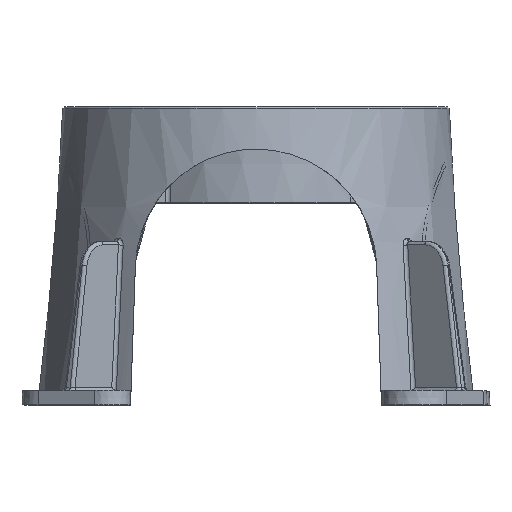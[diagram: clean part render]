
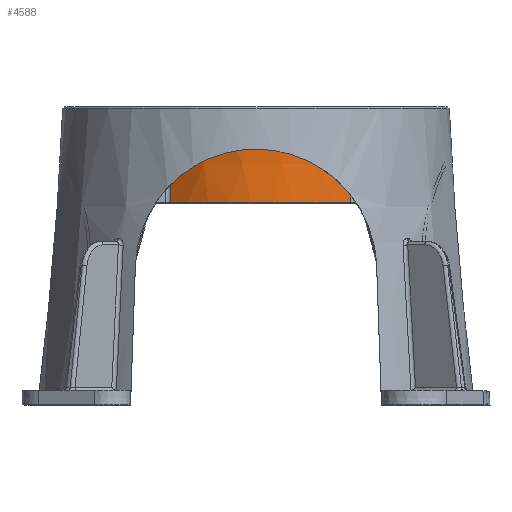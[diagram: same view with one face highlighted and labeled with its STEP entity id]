
A CAD part, top view. The second image highlights one B-rep face of the part: STEP entity #4588.
In plain terms, the highlighted conical face has half-angle 2 degrees and reference radius 62.049 mm.
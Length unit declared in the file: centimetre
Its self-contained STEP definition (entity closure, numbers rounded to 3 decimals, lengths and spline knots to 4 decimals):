
#550=B_SPLINE_CURVE_WITH_KNOTS('',3,(#7826,#7827,#7828,#7829,#7830,#7831,
#7832,#7833,#7834,#7835,#7836,#7837,#7838,#7839,#7840,#7841,#7842,#7843),
.UNSPECIFIED.,.F.,.U.,(4,2,2,2,2,2,2,2,4),(0.305,0.6429,
1.2663,1.6559,1.8994,2.1429,2.5326,
3.156,3.7988),.UNSPECIFIED.);
#566=B_SPLINE_CURVE_WITH_KNOTS('',3,(#8655,#8656,#8657,#8658,#8659,#8660,
#8661,#8662,#8663,#8664),.UNSPECIFIED.,.F.,.U.,(4,2,2,2,4),(0.,
0.487,1.2663,2.5131,3.4939),.UNSPECIFIED.);
#1024=VERTEX_POINT('',#7803);
#1027=VERTEX_POINT('',#7825);
#1044=VERTEX_POINT('',#8654);
#1045=VERTEX_POINT('',#8665);
#1444=CIRCLE('',#4904,6.2658);
#1445=CIRCLE('',#4905,6.1439);
#1696=EDGE_CURVE('',#1027,#1024,#550,.F.);
#1724=EDGE_CURVE('',#1044,#1027,#1444,.T.);
#1725=EDGE_CURVE('',#1045,#1044,#566,.F.);
#1726=EDGE_CURVE('',#1045,#1024,#1445,.T.);
#2533=ORIENTED_EDGE('',*,*,#1696,.F.);
#2534=ORIENTED_EDGE('',*,*,#1724,.F.);
#2535=ORIENTED_EDGE('',*,*,#1725,.F.);
#2536=ORIENTED_EDGE('',*,*,#1726,.T.);
#3917=EDGE_LOOP('',(#2533,#2534,#2535,#2536));
#4255=FACE_BOUND('',#3917,.T.);
#4588=ADVANCED_FACE('',(#4255),#29516,.T.);
#4903=AXIS2_PLACEMENT_3D('',#8652,#28986,#28987);
#4904=AXIS2_PLACEMENT_3D('',#8653,#28988,#28989);
#4905=AXIS2_PLACEMENT_3D('',#8666,#28990,#28991);
#7803=CARTESIAN_POINT('',(4.2451,-4.2926,4.4415));
#7825=CARTESIAN_POINT('',(4.2926,-0.8013,4.5644));
#7826=CARTESIAN_POINT('',(4.2451,-4.2926,4.4415));
#7827=CARTESIAN_POINT('',(4.2466,-4.1801,4.4455));
#7828=CARTESIAN_POINT('',(4.2482,-4.0675,4.4494));
#7829=CARTESIAN_POINT('',(4.2525,-3.7473,4.4607));
#7830=CARTESIAN_POINT('',(4.2554,-3.5397,4.468));
#7831=CARTESIAN_POINT('',(4.26,-3.2022,4.4799));
#7832=CARTESIAN_POINT('',(4.2617,-3.0725,4.4845));
#7833=CARTESIAN_POINT('',(4.2646,-2.8616,4.4919));
#7834=CARTESIAN_POINT('',(4.2657,-2.7805,4.4948));
#7835=CARTESIAN_POINT('',(4.2679,-2.6182,4.5005));
#7836=CARTESIAN_POINT('',(4.269,-2.5371,4.5033));
#7837=CARTESIAN_POINT('',(4.2719,-2.3262,4.5108));
#7838=CARTESIAN_POINT('',(4.2737,-2.1964,4.5153));
#7839=CARTESIAN_POINT('',(4.2783,-1.859,4.5272));
#7840=CARTESIAN_POINT('',(4.2811,-1.6513,4.5345));
#7841=CARTESIAN_POINT('',(4.2868,-1.2296,4.5493));
#7842=CARTESIAN_POINT('',(4.2897,-1.0154,4.5569));
#7843=CARTESIAN_POINT('',(4.2926,-0.8013,4.5644));
#8652=CARTESIAN_POINT('',(0.,-2.5469,0.));
#8653=CARTESIAN_POINT('',(0.,-0.8013,0.));
#8654=CARTESIAN_POINT('',(-3.8731,-0.8013,4.9254));
#8655=CARTESIAN_POINT('',(-3.8731,-0.8013,4.9254));
#8656=CARTESIAN_POINT('',(-3.8715,-0.9635,4.9195));
#8657=CARTESIAN_POINT('',(-3.8699,-1.1257,4.9136));
#8658=CARTESIAN_POINT('',(-3.8657,-1.5475,4.8981));
#8659=CARTESIAN_POINT('',(-3.8631,-1.8071,4.8886));
#8660=CARTESIAN_POINT('',(-3.8564,-2.482,4.8638));
#8661=CARTESIAN_POINT('',(-3.8523,-2.8973,4.8486));
#8662=CARTESIAN_POINT('',(-3.8449,-3.6392,4.8214));
#8663=CARTESIAN_POINT('',(-3.8416,-3.9659,4.8094));
#8664=CARTESIAN_POINT('',(-3.8383,-4.2926,4.7974));
#8665=CARTESIAN_POINT('',(-3.8383,-4.2926,4.7974));
#8666=CARTESIAN_POINT('',(0.,-4.2926,0.));
#28986=DIRECTION('',(0.,1.,0.));
#28987=DIRECTION('',(-6.205,0.,0.));
#28988=DIRECTION('',(0.,1.,0.));
#28989=DIRECTION('',(-6.266,0.,0.));
#28990=DIRECTION('',(0.,1.,0.));
#28991=DIRECTION('',(-6.144,0.,0.));
#29516=CONICAL_SURFACE('',#4903,6.2049,0.035);
